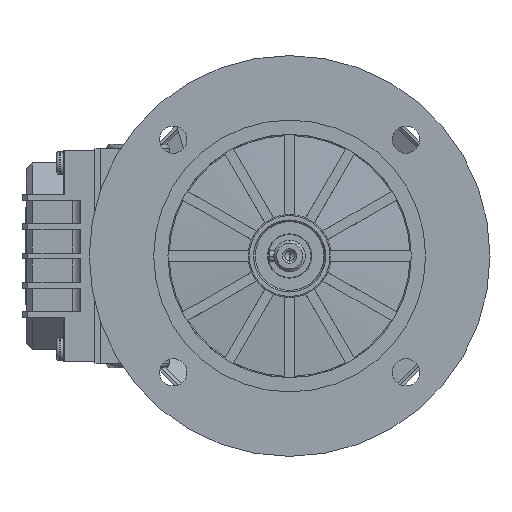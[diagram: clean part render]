
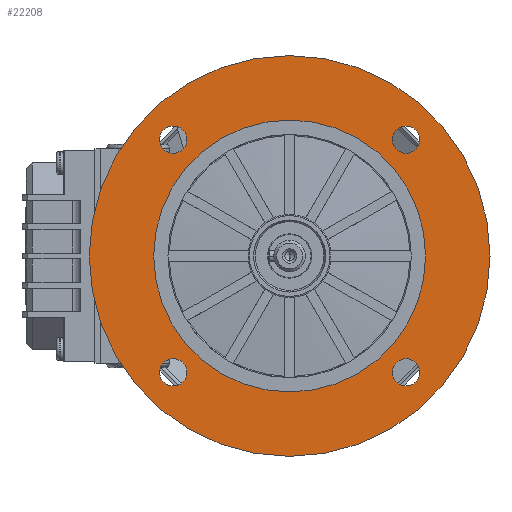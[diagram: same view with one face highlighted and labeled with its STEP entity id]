
A CAD part, left-side view. The second image highlights one B-rep face of the part: STEP entity #22208.
In plain terms, the highlighted planar face has unit normal (-1, 0, 0) as drawn and (0, -1, 0) by its records, which use the part's own axes.
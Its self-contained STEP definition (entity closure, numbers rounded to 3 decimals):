
#663 = AXIS2_PLACEMENT_3D ( 'NONE', #7136, #64090, #15252 ) ;
#1261 = AXIS2_PLACEMENT_3D ( 'NONE', #70200, #21338, #78376 ) ;
#3840 = DIRECTION ( 'NONE',  ( 0., -1., 0. ) ) ;
#4717 = DIRECTION ( 'NONE',  ( 0., -1., 0. ) ) ;
#4843 = AXIS2_PLACEMENT_3D ( 'NONE', #87069, #38224, #95239 ) ;
#4886 = EDGE_CURVE ( 'NONE', #56180, #35829, #87705, .T. ) ;
#7136 = CARTESIAN_POINT ( 'NONE',  ( -40.659, 3., -40.659 ) ) ;
#8219 = VERTEX_POINT ( 'NONE', #99737 ) ;
#9483 = ORIENTED_EDGE ( 'NONE', *, *, #43334, .F. ) ;
#11172 = CARTESIAN_POINT ( 'NONE',  ( -40.659, 3., -45.409 ) ) ;
#15252 = DIRECTION ( 'NONE',  ( 0., 0., -1. ) ) ;
#16990 = CARTESIAN_POINT ( 'NONE',  ( 0., 3., 0. ) ) ;
#17232 = EDGE_CURVE ( 'NONE', #77793, #21669, #22868, .T. ) ;
#18095 = CARTESIAN_POINT ( 'NONE',  ( 0., 3., 70. ) ) ;
#18309 = ORIENTED_EDGE ( 'NONE', *, *, #56767, .F. ) ;
#18504 = EDGE_LOOP ( 'NONE', ( #62086, #9483 ) ) ;
#19768 = EDGE_LOOP ( 'NONE', ( #102824, #34105 ) ) ;
#21338 = DIRECTION ( 'NONE',  ( 0., -1., 0. ) ) ;
#21669 = VERTEX_POINT ( 'NONE', #97002 ) ;
#21875 = EDGE_CURVE ( 'NONE', #104124, #73878, #81949, .T. ) ;
#22094 = CIRCLE ( 'NONE', #4843, 70. ) ;
#22208 = ADVANCED_FACE ( 'NONE', ( #83131, #104772, #64066, #85698, #61496, #39813 ), #98687, .T. ) ;
#22868 = CIRCLE ( 'NONE', #24483, 4.75 ) ;
#24483 = AXIS2_PLACEMENT_3D ( 'NONE', #87284, #38458, #95459 ) ;
#24850 = CIRCLE ( 'NONE', #103084, 4.75 ) ;
#25139 = DIRECTION ( 'NONE',  ( 0., 0., -1. ) ) ;
#25299 = ORIENTED_EDGE ( 'NONE', *, *, #64398, .F. ) ;
#26295 = DIRECTION ( 'NONE',  ( 0., 0., -1. ) ) ;
#28318 = DIRECTION ( 'NONE',  ( 0., -1., 0. ) ) ;
#30206 = DIRECTION ( 'NONE',  ( 0., -1., 0. ) ) ;
#31339 = EDGE_CURVE ( 'NONE', #44929, #55617, #90193, .T. ) ;
#32422 = CARTESIAN_POINT ( 'NONE',  ( -40.659, 3., -35.909 ) ) ;
#33999 = CARTESIAN_POINT ( 'NONE',  ( 40.659, 3., -45.409 ) ) ;
#34105 = ORIENTED_EDGE ( 'NONE', *, *, #83562, .F. ) ;
#35829 = VERTEX_POINT ( 'NONE', #11172 ) ;
#38224 = DIRECTION ( 'NONE',  ( 0., -1., 0. ) ) ;
#38458 = DIRECTION ( 'NONE',  ( 0., -1., 0. ) ) ;
#38821 = ORIENTED_EDGE ( 'NONE', *, *, #74381, .F. ) ;
#39813 = FACE_BOUND ( 'NONE', #92440, .T. ) ;
#40203 = AXIS2_PLACEMENT_3D ( 'NONE', #79029, #30206, #87238 ) ;
#41511 = CARTESIAN_POINT ( 'NONE',  ( 0., 3., -70. ) ) ;
#42233 = DIRECTION ( 'NONE',  ( 0., -1., 0. ) ) ;
#43334 = EDGE_CURVE ( 'NONE', #73878, #104124, #97169, .T. ) ;
#44929 = VERTEX_POINT ( 'NONE', #65757 ) ;
#44981 = CARTESIAN_POINT ( 'NONE',  ( 40.659, 3., 35.909 ) ) ;
#48210 = AXIS2_PLACEMENT_3D ( 'NONE', #66977, #75114, #26295 ) ;
#48349 = DIRECTION ( 'NONE',  ( 0., -1., 0. ) ) ;
#48404 = CARTESIAN_POINT ( 'NONE',  ( 0., 3., 0. ) ) ;
#48635 = VERTEX_POINT ( 'NONE', #41511 ) ;
#51094 = EDGE_CURVE ( 'NONE', #35829, #56180, #24850, .T. ) ;
#52541 = CARTESIAN_POINT ( 'NONE',  ( -40.659, 3., 40.659 ) ) ;
#53410 = CARTESIAN_POINT ( 'NONE',  ( -40.659, 3., -40.659 ) ) ;
#55617 = VERTEX_POINT ( 'NONE', #95608 ) ;
#56180 = VERTEX_POINT ( 'NONE', #32422 ) ;
#56631 = DIRECTION ( 'NONE',  ( 0., 0., -1. ) ) ;
#56767 = EDGE_CURVE ( 'NONE', #8219, #61472, #100631, .T. ) ;
#58301 = EDGE_LOOP ( 'NONE', ( #38821, #75465 ) ) ;
#60742 = DIRECTION ( 'NONE',  ( 0., 0., -1. ) ) ;
#61472 = VERTEX_POINT ( 'NONE', #104347 ) ;
#61496 = FACE_OUTER_BOUND ( 'NONE', #79393, .T. ) ;
#61656 = DIRECTION ( 'NONE',  ( 0., 0., -1. ) ) ;
#62086 = ORIENTED_EDGE ( 'NONE', *, *, #21875, .F. ) ;
#62439 = AXIS2_PLACEMENT_3D ( 'NONE', #16990, #73989, #25139 ) ;
#63261 = AXIS2_PLACEMENT_3D ( 'NONE', #52541, #3840, #60742 ) ;
#64066 = FACE_BOUND ( 'NONE', #19768, .T. ) ;
#64090 = DIRECTION ( 'NONE',  ( 0., -1., 0. ) ) ;
#64398 = EDGE_CURVE ( 'NONE', #61472, #8219, #74013, .T. ) ;
#65112 = AXIS2_PLACEMENT_3D ( 'NONE', #77149, #28318, #85365 ) ;
#65757 = CARTESIAN_POINT ( 'NONE',  ( -40.659, 3., 45.409 ) ) ;
#66133 = AXIS2_PLACEMENT_3D ( 'NONE', #91054, #42233, #99198 ) ;
#66769 = ORIENTED_EDGE ( 'NONE', *, *, #4886, .F. ) ;
#66977 = CARTESIAN_POINT ( 'NONE',  ( 70., 3., 0. ) ) ;
#69678 = CARTESIAN_POINT ( 'NONE',  ( 40.659, 3., 45.409 ) ) ;
#70200 = CARTESIAN_POINT ( 'NONE',  ( 40.659, 3., 40.659 ) ) ;
#73604 = CIRCLE ( 'NONE', #66133, 4.75 ) ;
#73878 = VERTEX_POINT ( 'NONE', #44981 ) ;
#73989 = DIRECTION ( 'NONE',  ( 0., -1., 0. ) ) ;
#74013 = CIRCLE ( 'NONE', #62439, 47.5 ) ;
#74381 = EDGE_CURVE ( 'NONE', #21669, #77793, #96692, .T. ) ;
#75114 = DIRECTION ( 'NONE',  ( 0., -1., 0. ) ) ;
#75465 = ORIENTED_EDGE ( 'NONE', *, *, #17232, .F. ) ;
#75768 = EDGE_CURVE ( 'NONE', #100347, #48635, #104088, .T. ) ;
#77149 = CARTESIAN_POINT ( 'NONE',  ( 40.659, 3., 40.659 ) ) ;
#77793 = VERTEX_POINT ( 'NONE', #33999 ) ;
#78376 = DIRECTION ( 'NONE',  ( 0., 0., -1. ) ) ;
#79029 = CARTESIAN_POINT ( 'NONE',  ( 40.659, 3., -40.659 ) ) ;
#79393 = EDGE_LOOP ( 'NONE', ( #89546, #96849 ) ) ;
#81949 = CIRCLE ( 'NONE', #1261, 4.75 ) ;
#83131 = FACE_BOUND ( 'NONE', #58301, .T. ) ;
#83562 = EDGE_CURVE ( 'NONE', #55617, #44929, #73604, .T. ) ;
#83641 = ORIENTED_EDGE ( 'NONE', *, *, #51094, .F. ) ;
#85278 = EDGE_CURVE ( 'NONE', #48635, #100347, #22094, .T. ) ;
#85365 = DIRECTION ( 'NONE',  ( 0., 0., -1. ) ) ;
#85698 = FACE_BOUND ( 'NONE', #18504, .T. ) ;
#87069 = CARTESIAN_POINT ( 'NONE',  ( 0., 3., 0. ) ) ;
#87238 = DIRECTION ( 'NONE',  ( 0., 0., -1. ) ) ;
#87284 = CARTESIAN_POINT ( 'NONE',  ( 40.659, 3., -40.659 ) ) ;
#87705 = CIRCLE ( 'NONE', #663, 4.75 ) ;
#89546 = ORIENTED_EDGE ( 'NONE', *, *, #85278, .T. ) ;
#90193 = CIRCLE ( 'NONE', #63261, 4.75 ) ;
#91054 = CARTESIAN_POINT ( 'NONE',  ( -40.659, 3., 40.659 ) ) ;
#92440 = EDGE_LOOP ( 'NONE', ( #18309, #25299 ) ) ;
#95239 = DIRECTION ( 'NONE',  ( 0., 0., -1. ) ) ;
#95459 = DIRECTION ( 'NONE',  ( 0., 0., -1. ) ) ;
#95608 = CARTESIAN_POINT ( 'NONE',  ( -40.659, 3., 35.909 ) ) ;
#96692 = CIRCLE ( 'NONE', #40203, 4.75 ) ;
#96849 = ORIENTED_EDGE ( 'NONE', *, *, #75768, .T. ) ;
#97002 = CARTESIAN_POINT ( 'NONE',  ( 40.659, 3., -35.909 ) ) ;
#97167 = CARTESIAN_POINT ( 'NONE',  ( 0., 3., 0. ) ) ;
#97169 = CIRCLE ( 'NONE', #65112, 4.75 ) ;
#97598 = AXIS2_PLACEMENT_3D ( 'NONE', #48404, #105374, #56631 ) ;
#98687 = PLANE ( 'NONE',  #48210 ) ;
#99198 = DIRECTION ( 'NONE',  ( 0., 0., -1. ) ) ;
#99350 = AXIS2_PLACEMENT_3D ( 'NONE', #97167, #48349, #105323 ) ;
#99737 = CARTESIAN_POINT ( 'NONE',  ( 0., 3., -47.5 ) ) ;
#100347 = VERTEX_POINT ( 'NONE', #18095 ) ;
#100631 = CIRCLE ( 'NONE', #99350, 47.5 ) ;
#102824 = ORIENTED_EDGE ( 'NONE', *, *, #31339, .F. ) ;
#103084 = AXIS2_PLACEMENT_3D ( 'NONE', #53410, #4717, #61656 ) ;
#104088 = CIRCLE ( 'NONE', #97598, 70. ) ;
#104124 = VERTEX_POINT ( 'NONE', #69678 ) ;
#104347 = CARTESIAN_POINT ( 'NONE',  ( 0., 3., 47.5 ) ) ;
#104772 = FACE_BOUND ( 'NONE', #105067, .T. ) ;
#105067 = EDGE_LOOP ( 'NONE', ( #66769, #83641 ) ) ;
#105323 = DIRECTION ( 'NONE',  ( 0., 0., -1. ) ) ;
#105374 = DIRECTION ( 'NONE',  ( 0., -1., 0. ) ) ;
